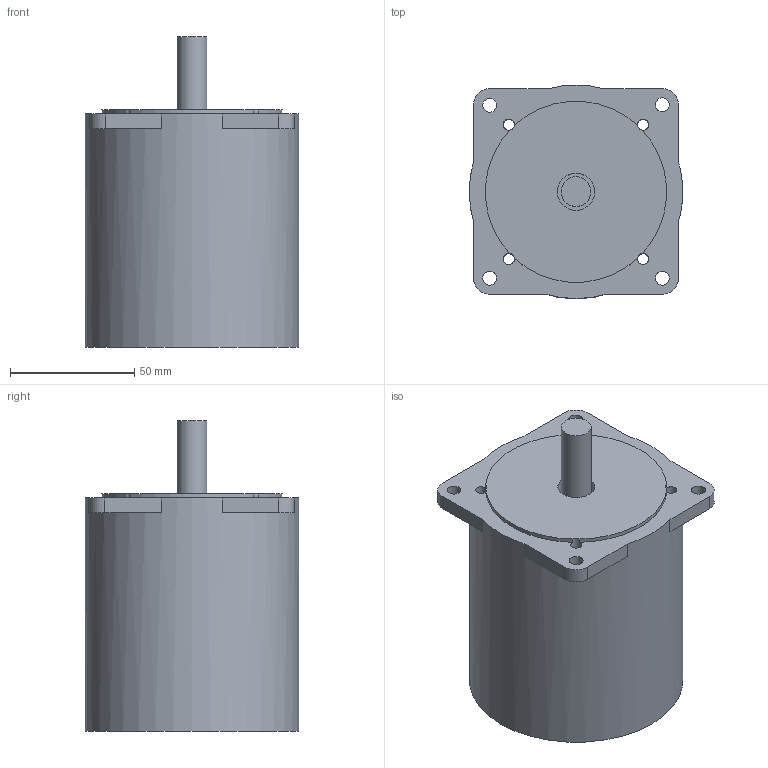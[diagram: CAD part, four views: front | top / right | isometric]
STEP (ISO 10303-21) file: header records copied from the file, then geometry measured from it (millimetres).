
FILE_DESCRIPTION(/* description */ (''),/* implementation_level */ '2;1');
FILE_NAME(/* name */ 'C:\Users\raffaele\Downloads\Projects\E&D\ipt-to-step-conversion\SLDPRT to STP\86ST94.stp',/* time_stamp */ '2021-04-07T17:16:39+02:00',/* author */ ('raffaele'),/* organization */ (''),/* preprocessor_version */ 'ST-DEVELOPER v18.1',/* originating_system */ 'Autodesk Inventor 2021',/* authorisation */ '');
FILE_SCHEMA (('AUTOMOTIVE_DESIGN { 1 0 10303 214 3 1 1 }'));
Length unit declared in the file: millimetre
Products named in the file (1): 86ST94
Bounding box: 86 x 86 x 125.1 mm (x, y, z)
Volume: 555580.5 mm3; surface area: 46996.7 mm2
Topology: 1 solids, 1 shells, 36 faces, 105 edges, 70 vertices
Faces by surface type: cylinder 19, plane 17
Full cylindrical faces by diameter (mm): 4.5 x4, 5.6 x4, 12 x1, 15 x1, 86 x1
Entity records: 1296 total; most frequent: DIRECTION 233, CARTESIAN_POINT 212, ORIENTED_EDGE 210, EDGE_CURVE 105, AXIS2_PLACEMENT_3D 91, VERTEX_POINT 70, CIRCLE 54, EDGE_LOOP 51
